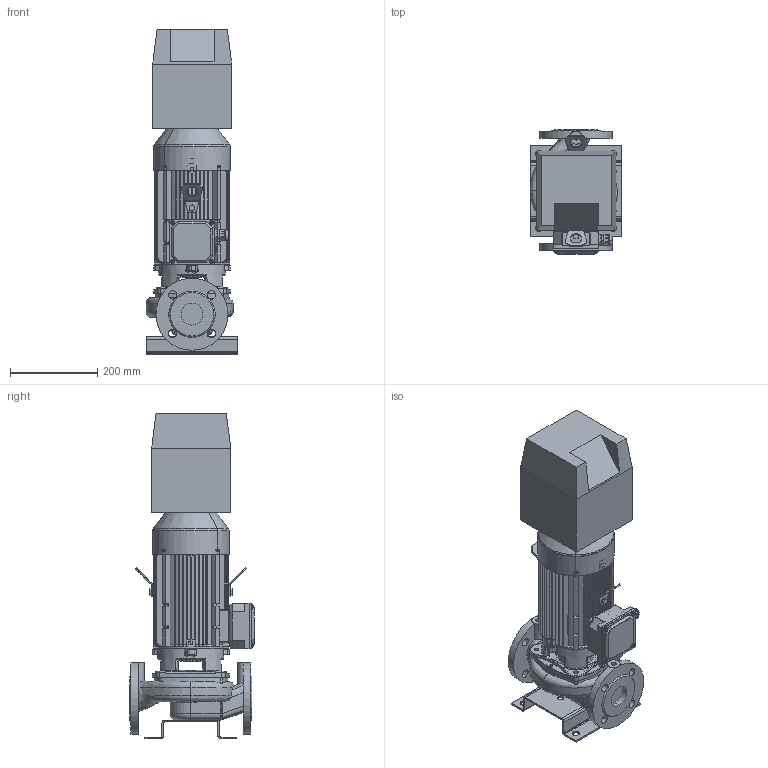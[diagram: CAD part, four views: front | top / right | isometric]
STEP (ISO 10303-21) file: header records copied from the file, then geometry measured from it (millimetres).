
FILE_DESCRIPTION(('STEP AP214'),'1');
FILE_NAME('export.stp','2018-08-08T13:25:45',(' '),(' '),'Spatial InterOp 3D',' ',' ');
FILE_SCHEMA(('AUTOMOTIVE_DESIGN { 1 0 10303 214 1 1 1 1 }'));
Length unit declared in the file: millimetre
Products named in the file (28): W_L50D2NC220KP; V_TLL50ABC; V_PPL50ABC; V_JALKA35973; M5x8_DIN; DIN_7985-M5X8; 160141; M5x12_DIN; DIN_7985-M5X12; 160137; 160138; 160139; 160140; Koura_Ale_M5; Plug_Blind_M20; Sealing_Plug_M20; V_MKP90-1-F16; 160033; 160008; 160048___; 160068___; 160135; 160134; DIN_EN_24017_-_M8_16-Stainless_S; NC_Size1
Assembly tree (32 placements, depth 5):
  W_L50D2NC220KP
    V_TLL50ABC
    V_PPL50ABC
    V_JALKA35973
    V_MKP90-1-F16
      160141
        M5x8_DIN
          DIN_7985-M5X8
        M5x12_DIN
          DIN_7985-M5X12
        M5x12_DIN
          DIN_7985-M5X12
        M5x12_DIN
          DIN_7985-M5X12
        M5x12_DIN
          DIN_7985-M5X12
        160137
        160138
        160139
        160140
        Koura_Ale_M5
        Plug_Blind_M20
        Sealing_Plug_M20
      160033
        160008
      160048___
      160068___
      160135
      160134  x2
      DIN_EN_24017_-_M8_16-Stainless_S  x2
    NC_Size1
Bounding box: 210 x 285.5 x 745.95 mm (x, y, z)
Volume: 11522367.9 mm3; surface area: 1528590.2 mm2
Topology: 25 solids, 25 shells, 2618 faces, 6925 edges, 4374 vertices
Faces by surface type: plane 1084, cylinder 774, torus 302, bspline 271, cone 167, sphere 20
Entity records: 99023 total; most frequent: CARTESIAN_POINT 34635, ORIENTED_EDGE 13206, DIRECTION 12252, EDGE_CURVE 6603, AXIS2_PLACEMENT_3D 4662, VERTEX_POINT 4196, LINE 2928, VECTOR 2928
